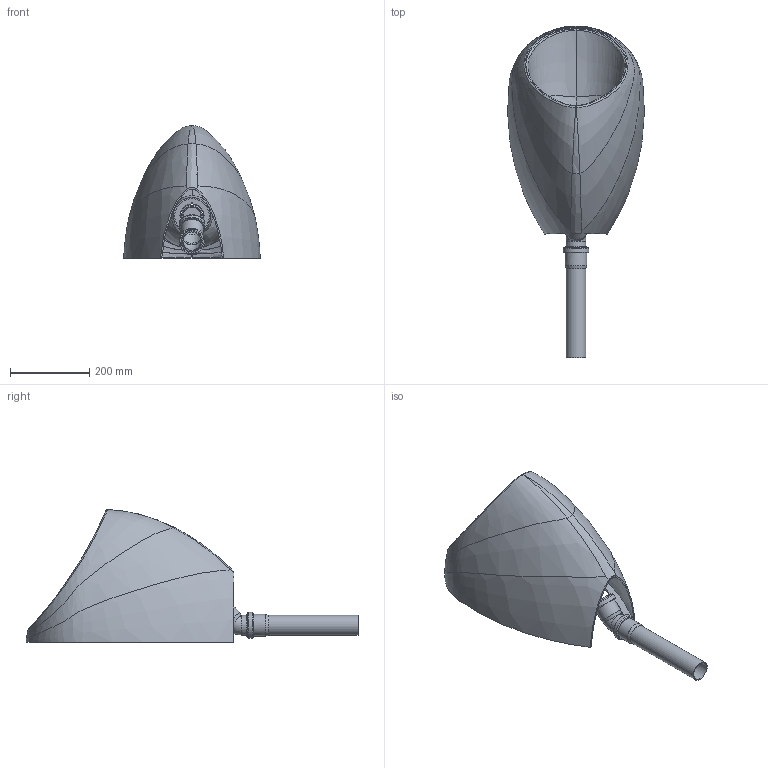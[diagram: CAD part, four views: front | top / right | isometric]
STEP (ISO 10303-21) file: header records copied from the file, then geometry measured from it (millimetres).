
FILE_DESCRIPTION((''),'2;1');
FILE_NAME('D:\ConTechCAD\Kunder\Uridan\Kummer\GVC-1\WWWfiler\3D\GVC-1.stp','2010-02-07T04:25:35',('Finn Lundsgaard'),(''),'Autodesk Inventor 2009','Autodesk Inventor 2009','');
FILE_SCHEMA(('AUTOMOTIVE_DESIGN { 1 0 10303 214 1 1 1 1 }'));
Length unit declared in the file: millimetre
Products named in the file (10): GVC-1; Kumme_GVC-1; Bøjning_Ø50x45_med_pakning; Bøjning_Ø50x45; DIN 3771 50 x 5,3 - N - NBR 70; Studs_Ø50x225_med_pakning; Rørstuds_Ø50x225; dæksel_samlet_GH-1; Dæksel_GH-1; Rør_Dæksel_GH-1
Assembly tree (10 placements, depth 3):
  GVC-1
    Kumme_GVC-1
    Bøjning_Ø50x45_med_pakning
      Bøjning_Ø50x45
      DIN 3771 50 x 5,3 - N - NBR 70
    Studs_Ø50x225_med_pakning
      Rørstuds_Ø50x225
      DIN 3771 50 x 5,3 - N - NBR 70
    dæksel_samlet_GH-1
      Dæksel_GH-1
      Rør_Dæksel_GH-1
Bounding box: 345.18 x 838 x 334.88 mm (x, y, z)
Volume: 1626492.8 mm3; surface area: 1125863.8 mm2
Topology: 7 solids, 7 shells, 122 faces, 321 edges, 208 vertices
Faces by surface type: bspline 41, plane 26, cylinder 25, cone 20, torus 10
Full cylindrical faces by diameter (mm): 44.5 x1, 46 x2, 49.85 x1, 50 x3, 50.15 x1, 51 x4, 55 x4, 59.2 x2, 65 x1, 65.2 x1
Entity records: 22316 total; most frequent: CARTESIAN_POINT 19669, ORIENTED_EDGE 498, DIRECTION 388, EDGE_CURVE 249, EDGE_LOOP 190, VERTEX_POINT 189, AXIS2_PLACEMENT_3D 183, B_SPLINE_CURVE_WITH_KNOTS 136
